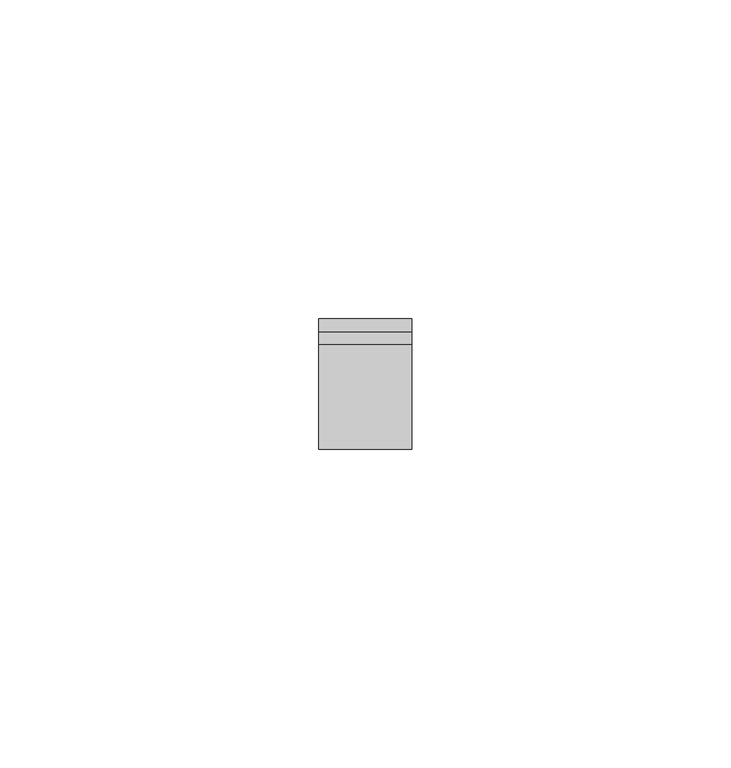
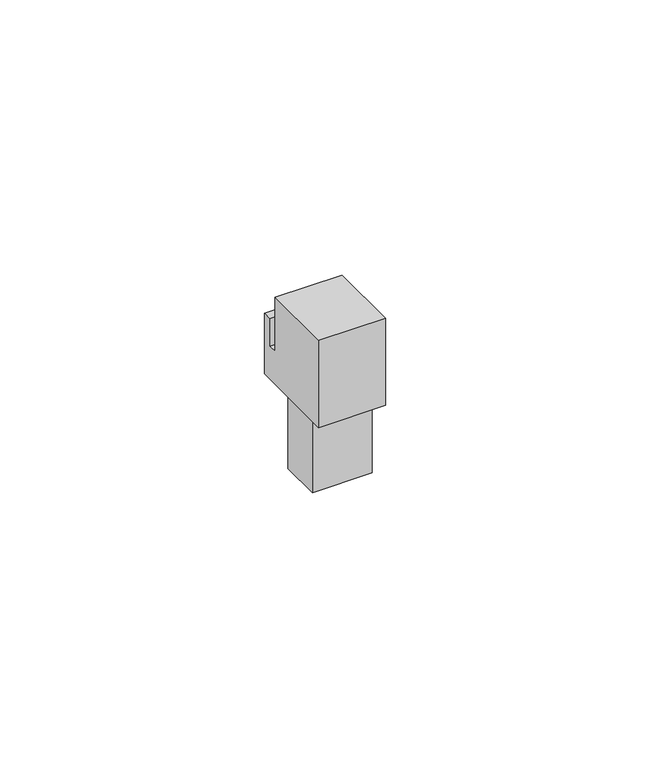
"""IFC4 building model written with IfcOpenShell, lengths in millimetres: electric appliance geometry, Data_Device-Network-Leviton-QuickPort-Adapter-Fiber : SC Multimode."""

from ifc_helpers import new_model, si_unit, frame, origin, place, context, project, spatial, polyline, outline, extrude, source, transform, mapped, element, save


def electric_appliance_db213199(model_context):
    return source(origin(), model_context, "Body", "SweptSolid", [
        extrude(outline(polyline([(0.0, 0.0254), (16.383, 0.0254), (16.383, -12.446), (18.415, -12.446), (18.415, -6.096), (20.447, -6.096), (20.447, -20.066), (0.0, -20.066), (0.0, 0.0254)])), frame((-7.3025, 0.0, 0.0), z_axis=(1.0, 0.0, 0.0), x_axis=(0.0, 1.0, 0.0)), (0.0, 0.0, 1.0), 14.605),
        extrude(outline(polyline([(6.5405, 12.7638006), (6.5405, 3.6191994), (-6.5405, 3.6191994), (-6.5405, 12.7638006), (6.5405, 12.7638006)])), frame((0.0, 0.0, -37.592), z_axis=(0.0, 0.0, 1.0), x_axis=(1.0, 0.0, 0.0)), (0.0, 0.0, 1.0), 36.83),
    ])


if __name__ == "__main__":
    model = new_model("IFC4")
    model_context = context("Model", 3, world=origin())
    ifc_project = project(units=[si_unit("LENGTHUNIT", "METRE", prefix="MILLI")], contexts=[model_context])
    site = spatial("IfcSite", under=ifc_project)
    building = spatial("IfcBuilding", under=site)
    placement = place(None, origin())
    electric_appliance_shape = electric_appliance_db213199(model_context)
    element("IfcElectricAppliance", 1, ObjectType="Data_Device-Network-Leviton-QuickPort-Adapter-Fiber : SC Multimode", at=placement, inside=building, context=model_context, shape_type="MappedRepresentation", body=[
        mapped(electric_appliance_shape, transform((0.0, 0.0, 0.0), x_axis=(1.0, 0.0, 0.0), y_axis=(0.0, 1.0, 0.0), z_axis=(0.0, 0.0, 1.0))),
    ])
    save(model, "model.ifc")
